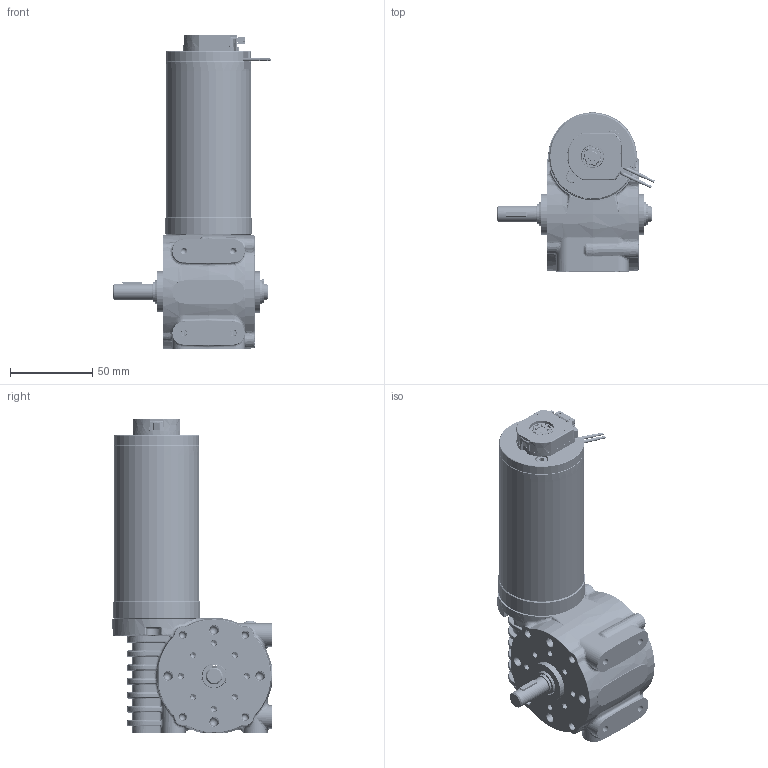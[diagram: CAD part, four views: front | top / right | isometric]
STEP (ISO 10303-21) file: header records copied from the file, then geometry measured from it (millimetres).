
FILE_DESCRIPTION (( 'STEP AP214' ), '1' );
FILE_NAME ('BRx52-30-GB80 - Diff Encoder - Shaft.STEP', '2025-05-02T11:06:52', ( '' ), ( '' ), 'SwSTEP 2.0', 'SolidWorks 2023', '' );
FILE_SCHEMA (( 'AUTOMOTIVE_DESIGN' ));
Length unit declared in the file: millimetre
Products named in the file (1): BRx52-30-GB80 - Diff Encoder - Shaft
Bounding box: 95.83 x 96.92 x 191.8 mm (x, y, z)
Volume: 309357.3 mm3; surface area: 159581.5 mm2
Topology: 41 solids, 41 shells, 9271 faces, 24526 edges, 15937 vertices
Faces by surface type: plane 5195, cylinder 2738, cone 509, bspline 407, torus 402, sphere 20
Entity records: 414393 total; most frequent: CARTESIAN_POINT 81450, ORIENTED_EDGE 48854, DIRECTION 47048, EDGE_CURVE 24427, VERTEX_POINT 15937, VECTOR 15898, LINE 15898, AXIS2_PLACEMENT_3D 15575
